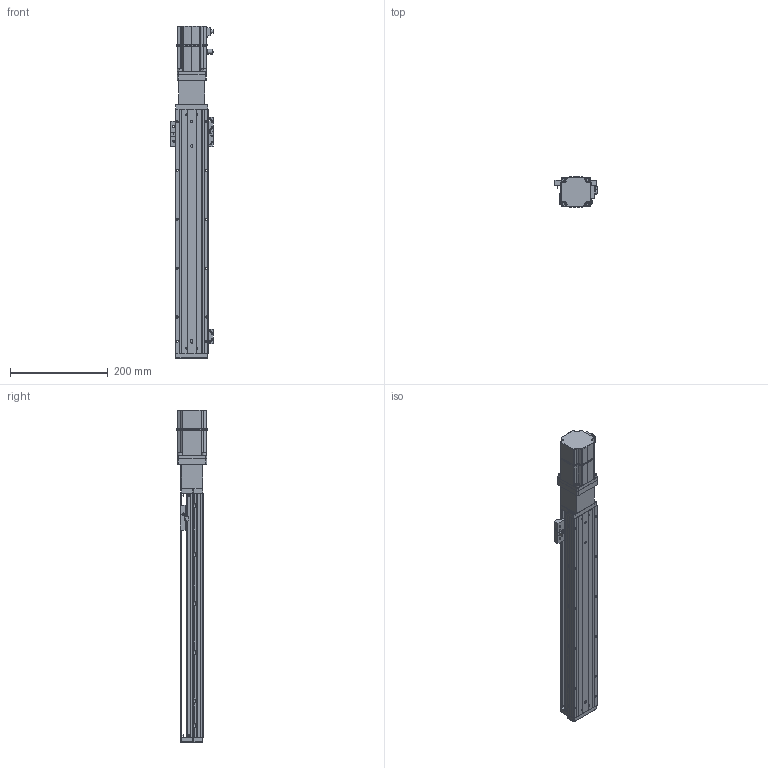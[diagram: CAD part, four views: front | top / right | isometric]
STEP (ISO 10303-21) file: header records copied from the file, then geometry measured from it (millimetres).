
FILE_DESCRIPTION (( 'STEP AP203' ), '1' );
FILE_NAME ('KTHA60-400-BC-M20-C4L.step', '2022-12-16T01:28:57', ( '微软用户' ), ( '微软中国' ), 'SwSTEP 2.0', 'SolidWorks 2020', '' );
FILE_SCHEMA (( 'CONFIG_CONTROL_DESIGN' ));
Length unit declared in the file: millimetre
Products named in the file (18): GBT77-2000M3-3; _X2_4E0983F1_X0_200W_1; GB¨uT 70.2-M3¡Á5_M3¡Á6; GBT 70.1-M3℅6; KTHA60-400-BC-M20-C4L; GBT 70.3-M3℅6; CTHA60-016; EE_SX911P_R; CTHA60-013; CTHA60-017; CTHA60-027; KTHA60-001_500; CTHA60-021; KTHA60-002; KTHA60-004; GBT 70.1-M4×16; CTHA60-006-3_M20B; KTHA60-005
Assembly tree (50 placements, depth 2):
  KTHA60-400-BC-M20-C4L
    KTHA60-001_500
    KTHA60-004
    KTHA60-005
    GB¨uT 70.2-M3¡Á5_M3¡Á6  x6
    GBT 70.3-M3℅6  x6
    EE_SX911P_R  x3
    CTHA60-017  x3
    CTHA60-021  x2
    GBT 70.1-M4×16  x8
    GBT77-2000M3-3  x6
    GBT 70.1-M3℅6  x6
    CTHA60-016  x2
    CTHA60-013
    CTHA60-027
    KTHA60-002
    CTHA60-006-3_M20B
    _X2_4E0983F1_X0_200W_1
Bounding box: 87.72 x 62.42 x 679.7 mm (x, y, z)
Volume: 1340453.4 mm3; surface area: 318923.7 mm2
Topology: 53 solids, 53 shells, 2295 faces, 5427 edges, 3320 vertices
Faces by surface type: plane 1244, cylinder 588, cone 298, torus 80, bspline 69, sphere 16
Entity records: 40185 total; most frequent: CARTESIAN_POINT 7792, DIRECTION 6268, ORIENTED_EDGE 6058, EDGE_CURVE 3029, AXIS2_PLACEMENT_3D 2149, LINE 1970, VECTOR 1970, VERTEX_POINT 1887
